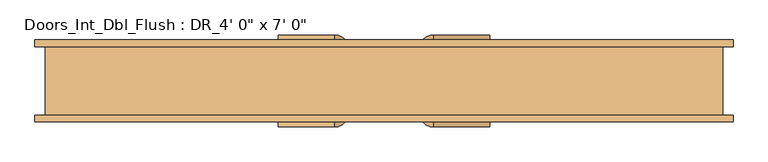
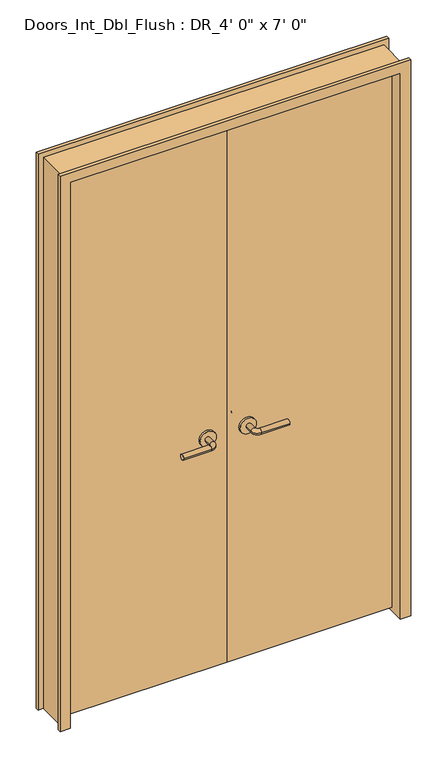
"""IFC4 building model written with IfcOpenShell, lengths in millimetres: door geometry."""

from ifc_helpers import new_model, si_unit, point, frame, frame_2d, origin, place, context, project, spatial, polyline, circle_curve, ellipse_curve, trimmed, segment, composite_curve, outline, extrude, faceted_brep, source, transform, mapped, element, save
from ifc_brep_helpers import plane_surface, cylinder_surface, revolved_surface, advanced_brep


def door_745d30e0(model_context):
    return source(origin(), model_context, "Body", "SolidModel", [
        advanced_brep(
        [(-66.2, -30.225, 914.4), (-86.2, -30.225, 914.4), (-66.2, -60.225, 914.4), (-86.2, -60.225, 914.4), (-91.2, -65.225, 914.4), (-91.2, -85.225, 914.4), (-196.2, -85.225, 914.4), (-196.2, -65.225, 914.4)],
        [
            (0, 1, circle_curve(frame((-76.2, -30.225, 914.4), z_axis=(0.0, 1.0, 0.0), x_axis=(-1.0, 0.0, 0.0)), 10.0)),
            (1, 0, circle_curve(frame((-76.2, -30.225, 914.4), z_axis=(0.0, 1.0, 0.0), x_axis=(-1.0, 0.0, 0.0)), 10.0)),
            (0, 2),
            (2, 3, circle_curve(frame((-76.2, -60.225, 914.4), z_axis=(0.0, 1.0, 0.0), x_axis=(-1.0, 0.0, 0.0)), 10.0)),
            (3, 1),
            (3, 2, circle_curve(frame((-76.2, -60.225, 914.4), z_axis=(0.0, 1.0, 0.0), x_axis=(-1.0, 0.0, 0.0)), 10.0)),
            (4, 3, circle_curve(frame((-91.2, -60.225, 914.4), z_axis=(0.0, 0.0, 1.0), x_axis=(1.0, 0.0, 0.0)), 5.0)),
            (2, 5, circle_curve(frame((-91.2, -60.225, 914.4), z_axis=(0.0, 0.0, -1.0), x_axis=(1.0, 0.0, 0.0)), 25.0)),
            (5, 4, circle_curve(frame((-91.2, -75.225, 914.4), z_axis=(1.0, 0.0, 0.0), x_axis=(0.0, 1.0, 0.0)), 10.0)),
            (4, 5, circle_curve(frame((-91.2, -75.225, 914.4), z_axis=(1.0, 0.0, 0.0), x_axis=(0.0, 1.0, 0.0)), 10.0)),
            (6, 7, circle_curve(frame((-196.2, -75.225, 914.4), z_axis=(-1.0, 0.0, 0.0), x_axis=(0.0, 1.0, 0.0)), 10.0)),
            (7, 6, circle_curve(frame((-196.2, -75.225, 914.4), z_axis=(-1.0, 0.0, 0.0), x_axis=(0.0, 1.0, 0.0)), 10.0)),
            (5, 6),
            (7, 4),
        ],
        [
            plane_surface(frame((-76.2, -30.225, 914.4), z_axis=(0.0, 1.0, 0.0), x_axis=(0.0, 0.0, 1.0))),
            cylinder_surface(frame((-76.2, -30.225, 914.4), z_axis=(0.0, 1.0, 0.0), x_axis=(-1.0, 0.0, 0.0)), 10.0),
            revolved_surface(trimmed(ellipse_curve(frame((-76.2, -60.225, 914.4), z_axis=(0.0, 1.0, 0.0), x_axis=(-1.0, 0.0, 0.0)), 10.0, 10.0), [point((-66.2, -60.225, 914.4))], [point((-86.2, -60.225, 914.4))], True, "CARTESIAN"), (-91.2, -60.225, 914.4), (0.0, 0.0, -1.0)),
            revolved_surface(trimmed(ellipse_curve(frame((-76.2, -60.225, 914.4), z_axis=(0.0, 1.0, 0.0), x_axis=(-1.0, 0.0, 0.0)), 10.0, 10.0), [point((-86.2, -60.225, 914.4))], [point((-66.2, -60.225, 914.4))], True, "CARTESIAN"), (-91.2, -60.225, 914.4), (0.0, 0.0, -1.0)),
            plane_surface(frame((-196.2, -75.225, 914.4), z_axis=(-1.0, 0.0, 0.0), x_axis=(0.0, 0.0, 1.0))),
            cylinder_surface(frame((-91.2, -75.225, 914.4), z_axis=(1.0, 0.0, 0.0), x_axis=(0.0, 1.0, 0.0)), 10.0),
        ],
        [
            (0, [[1, 2]]),
            (1, [[-1, 3, 4, 5]]),
            (1, [[-2, -5, 6, -3]]),
            (2, [[7, -4, 8, 9]]),
            (3, [[-8, -6, -7, 10]]),
            (4, [[11, 12]]),
            (5, [[-9, 13, -12, 14]]),
            (5, [[-10, -14, -11, -13]]),
        ],
    ),
        extrude(outline(composite_curve([segment(trimmed(circle_curve(frame_2d((914.4, -73.7)), 30.0), [point((914.4, -43.7))], [point((914.4, -103.7))], False, "CARTESIAN"), True, "CONTINUOUS"), segment(trimmed(circle_curve(frame_2d((914.4, -73.7)), 30.0), [point((914.4, -103.7))], [point((914.4, -43.7))], False, "CARTESIAN"), True, "CONTINUOUS")], self_intersect=False)), frame((0.0, -30.225, 0.0), z_axis=(0.0, 1.0, 0.0), x_axis=(0.0, 0.0, 1.0)), (0.0, 0.0, 1.0), 8.0),
        advanced_brep(
        [(-66.2, 30.225, 914.4), (-86.2, 30.225, 914.4), (-86.2, 60.225, 914.4), (-66.2, 60.225, 914.4), (-91.2, 65.225, 914.4), (-91.2, 85.225, 914.4), (-196.2, 85.225, 914.4), (-196.2, 65.225, 914.4)],
        [
            (0, 1, circle_curve(frame((-76.2, 30.225, 914.4), z_axis=(0.0, -1.0, 0.0), x_axis=(-1.0, 0.0, 0.0)), 10.0)),
            (1, 0, circle_curve(frame((-76.2, 30.225, 914.4), z_axis=(0.0, -1.0, 0.0), x_axis=(-1.0, 0.0, 0.0)), 10.0)),
            (1, 2),
            (2, 3, circle_curve(frame((-76.2, 60.225, 914.4), z_axis=(0.0, -1.0, 0.0), x_axis=(-1.0, 0.0, 0.0)), 10.0)),
            (3, 0),
            (3, 2, circle_curve(frame((-76.2, 60.225, 914.4), z_axis=(0.0, -1.0, 0.0), x_axis=(-1.0, 0.0, 0.0)), 10.0)),
            (4, 5, circle_curve(frame((-91.2, 75.225, 914.4), z_axis=(1.0, 0.0, 0.0), x_axis=(0.0, -1.0, 0.0)), 10.0)),
            (5, 3, circle_curve(frame((-91.2, 60.225, 914.4), z_axis=(0.0, 0.0, -1.0), x_axis=(1.0, 0.0, 0.0)), 25.0)),
            (2, 4, circle_curve(frame((-91.2, 60.225, 914.4), z_axis=(0.0, 0.0, 1.0), x_axis=(1.0, 0.0, 0.0)), 5.0)),
            (5, 4, circle_curve(frame((-91.2, 75.225, 914.4), z_axis=(1.0, 0.0, 0.0), x_axis=(0.0, -1.0, 0.0)), 10.0)),
            (6, 7, circle_curve(frame((-196.2, 75.225, 914.4), z_axis=(-1.0, 0.0, 0.0), x_axis=(0.0, -1.0, 0.0)), 10.0)),
            (7, 6, circle_curve(frame((-196.2, 75.225, 914.4), z_axis=(-1.0, 0.0, 0.0), x_axis=(0.0, -1.0, 0.0)), 10.0)),
            (4, 7),
            (6, 5),
        ],
        [
            plane_surface(frame((-76.2, 30.225, 914.4), z_axis=(0.0, -1.0, 0.0), x_axis=(0.0, 0.0, 1.0))),
            cylinder_surface(frame((-76.2, 30.225, 914.4), z_axis=(0.0, -1.0, 0.0), x_axis=(-1.0, 0.0, 0.0)), 10.0),
            revolved_surface(trimmed(ellipse_curve(frame((-76.2, 60.225, 914.4), z_axis=(0.0, 1.0, 0.0), x_axis=(-1.0, 0.0, 0.0)), 10.0, 10.0), [point((-66.2, 60.225, 914.4))], [point((-86.2, 60.225, 914.4))], True, "CARTESIAN"), (-91.2, 60.225, 914.4), (0.0, 0.0, -1.0)),
            revolved_surface(trimmed(ellipse_curve(frame((-76.2, 60.225, 914.4), z_axis=(0.0, 1.0, 0.0), x_axis=(-1.0, 0.0, 0.0)), 10.0, 10.0), [point((-86.2, 60.225, 914.4))], [point((-66.2, 60.225, 914.4))], True, "CARTESIAN"), (-91.2, 60.225, 914.4), (0.0, 0.0, -1.0)),
            plane_surface(frame((-196.2, 75.225, 914.4), z_axis=(-1.0, 0.0, 0.0), x_axis=(0.0, 0.0, 1.0))),
            cylinder_surface(frame((-91.2, 75.225, 914.4), z_axis=(1.0, 0.0, 0.0), x_axis=(0.0, -1.0, 0.0)), 10.0),
        ],
        [
            (0, [[1, 2]]),
            (1, [[3, 4, 5, -2]]),
            (1, [[-5, 6, -3, -1]]),
            (2, [[7, 8, -4, 9]]),
            (3, [[10, -9, -6, -8]]),
            (4, [[11, 12]]),
            (5, [[13, -11, 14, -7]]),
            (5, [[-14, -12, -13, -10]]),
        ],
    ),
        extrude(outline(composite_curve([segment(trimmed(circle_curve(frame_2d((914.4, -73.7)), 30.0), [point((914.4, -43.7))], [point((914.4, -103.7))], False, "CARTESIAN"), True, "CONTINUOUS"), segment(trimmed(circle_curve(frame_2d((914.4, -73.7)), 30.0), [point((914.4, -103.7))], [point((914.4, -43.7))], False, "CARTESIAN"), True, "CONTINUOUS")], self_intersect=False)), frame((0.0, 22.225, 0.0), z_axis=(0.0, 1.0, 0.0), x_axis=(0.0, 0.0, 1.0)), (0.0, 0.0, 1.0), 8.0),
        extrude(outline(polyline([(-609.6, -22.225), (-609.6, 22.225), (0.0, 22.225), (0.0, -22.225), (-609.6, -22.225)])), frame((0.0, 0.0, 12.7), z_axis=(0.0, 0.0, 1.0), x_axis=(1.0, 0.0, 0.0)), (0.0, 0.0, 1.0), 2120.9),
        advanced_brep(
        [(66.2, -30.225, 914.4), (86.2, -30.225, 914.4), (86.2, -60.225, 914.4), (66.2, -60.225, 914.4), (91.2, -65.225, 914.4), (91.2, -85.225, 914.4), (196.2, -85.225, 914.4), (196.2, -65.225, 914.4)],
        [
            (0, 1, circle_curve(frame((76.2, -30.225, 914.4), z_axis=(0.0, 1.0, 0.0), x_axis=(1.0, 0.0, 0.0)), 10.0)),
            (1, 0, circle_curve(frame((76.2, -30.225, 914.4), z_axis=(0.0, 1.0, 0.0), x_axis=(1.0, 0.0, 0.0)), 10.0)),
            (1, 2),
            (2, 3, circle_curve(frame((76.2, -60.225, 914.4), z_axis=(0.0, 1.0, 0.0), x_axis=(1.0, 0.0, 0.0)), 10.0)),
            (3, 0),
            (3, 2, circle_curve(frame((76.2, -60.225, 914.4), z_axis=(0.0, 1.0, 0.0), x_axis=(1.0, 0.0, 0.0)), 10.0)),
            (4, 5, circle_curve(frame((91.2, -75.225, 914.4), z_axis=(-1.0, 0.0, 0.0), x_axis=(0.0, 1.0, 0.0)), 10.0)),
            (5, 3, circle_curve(frame((91.2, -60.225, 914.4), z_axis=(0.0, 0.0, -1.0), x_axis=(-1.0, 0.0, 0.0)), 25.0)),
            (2, 4, circle_curve(frame((91.2, -60.225, 914.4), z_axis=(0.0, 0.0, 1.0), x_axis=(-1.0, 0.0, 0.0)), 5.0)),
            (5, 4, circle_curve(frame((91.2, -75.225, 914.4), z_axis=(-1.0, 0.0, 0.0), x_axis=(0.0, 1.0, 0.0)), 10.0)),
            (6, 7, circle_curve(frame((196.2, -75.225, 914.4), z_axis=(1.0, 0.0, 0.0), x_axis=(0.0, 1.0, 0.0)), 10.0)),
            (7, 6, circle_curve(frame((196.2, -75.225, 914.4), z_axis=(1.0, 0.0, 0.0), x_axis=(0.0, 1.0, 0.0)), 10.0)),
            (4, 7),
            (6, 5),
        ],
        [
            plane_surface(frame((76.2, -30.225, 914.4), z_axis=(0.0, 1.0, 0.0), x_axis=(0.0, 0.0, 1.0))),
            cylinder_surface(frame((76.2, -30.225, 914.4), z_axis=(0.0, 1.0, 0.0), x_axis=(1.0, 0.0, 0.0)), 10.0),
            revolved_surface(trimmed(ellipse_curve(frame((76.2, -60.225, 914.4), z_axis=(0.0, -1.0, 0.0), x_axis=(1.0, 0.0, 0.0)), 10.0, 10.0), [point((66.2, -60.225, 914.4))], [point((86.2, -60.225, 914.4))], True, "CARTESIAN"), (91.2, -60.225, 914.4), (0.0, 0.0, -1.0)),
            revolved_surface(trimmed(ellipse_curve(frame((76.2, -60.225, 914.4), z_axis=(0.0, -1.0, 0.0), x_axis=(1.0, 0.0, 0.0)), 10.0, 10.0), [point((86.2, -60.225, 914.4))], [point((66.2, -60.225, 914.4))], True, "CARTESIAN"), (91.2, -60.225, 914.4), (0.0, 0.0, -1.0)),
            plane_surface(frame((196.2, -75.225, 914.4), z_axis=(1.0, 0.0, 0.0), x_axis=(0.0, 0.0, 1.0))),
            cylinder_surface(frame((91.2, -75.225, 914.4), z_axis=(-1.0, 0.0, 0.0), x_axis=(0.0, 1.0, 0.0)), 10.0),
        ],
        [
            (0, [[1, 2]]),
            (1, [[3, 4, 5, -2]]),
            (1, [[-5, 6, -3, -1]]),
            (2, [[7, 8, -4, 9]]),
            (3, [[10, -9, -6, -8]]),
            (4, [[11, 12]]),
            (5, [[13, -11, 14, -7]]),
            (5, [[-14, -12, -13, -10]]),
        ],
    ),
        extrude(outline(composite_curve([segment(trimmed(circle_curve(frame_2d((914.4, 73.7)), 30.0), [point((914.4, 43.7))], [point((914.4, 103.7))], False, "CARTESIAN"), True, "CONTINUOUS"), segment(trimmed(circle_curve(frame_2d((914.4, 73.7)), 30.0), [point((914.4, 103.7))], [point((914.4, 43.7))], False, "CARTESIAN"), True, "CONTINUOUS")], self_intersect=False)), frame((0.0, -30.225, 0.0), z_axis=(0.0, 1.0, 0.0), x_axis=(0.0, 0.0, 1.0)), (0.0, 0.0, 1.0), 8.0),
        advanced_brep(
        [(66.2, 30.225, 914.4), (86.2, 30.225, 914.4), (66.2, 60.225, 914.4), (86.2, 60.225, 914.4), (91.2, 65.225, 914.4), (91.2, 85.225, 914.4), (196.2, 85.225, 914.4), (196.2, 65.225, 914.4)],
        [
            (0, 1, circle_curve(frame((76.2, 30.225, 914.4), z_axis=(0.0, -1.0, 0.0), x_axis=(1.0, 0.0, 0.0)), 10.0)),
            (1, 0, circle_curve(frame((76.2, 30.225, 914.4), z_axis=(0.0, -1.0, 0.0), x_axis=(1.0, 0.0, 0.0)), 10.0)),
            (0, 2),
            (2, 3, circle_curve(frame((76.2, 60.225, 914.4), z_axis=(0.0, -1.0, 0.0), x_axis=(1.0, 0.0, 0.0)), 10.0)),
            (3, 1),
            (3, 2, circle_curve(frame((76.2, 60.225, 914.4), z_axis=(0.0, -1.0, 0.0), x_axis=(1.0, 0.0, 0.0)), 10.0)),
            (4, 3, circle_curve(frame((91.2, 60.225, 914.4), z_axis=(0.0, 0.0, 1.0), x_axis=(-1.0, 0.0, 0.0)), 5.0)),
            (2, 5, circle_curve(frame((91.2, 60.225, 914.4), z_axis=(0.0, 0.0, -1.0), x_axis=(-1.0, 0.0, 0.0)), 25.0)),
            (5, 4, circle_curve(frame((91.2, 75.225, 914.4), z_axis=(-1.0, 0.0, 0.0), x_axis=(0.0, -1.0, 0.0)), 10.0)),
            (4, 5, circle_curve(frame((91.2, 75.225, 914.4), z_axis=(-1.0, 0.0, 0.0), x_axis=(0.0, -1.0, 0.0)), 10.0)),
            (6, 7, circle_curve(frame((196.2, 75.225, 914.4), z_axis=(1.0, 0.0, 0.0), x_axis=(0.0, -1.0, 0.0)), 10.0)),
            (7, 6, circle_curve(frame((196.2, 75.225, 914.4), z_axis=(1.0, 0.0, 0.0), x_axis=(0.0, -1.0, 0.0)), 10.0)),
            (5, 6),
            (7, 4),
        ],
        [
            plane_surface(frame((76.2, 30.225, 914.4), z_axis=(0.0, -1.0, 0.0), x_axis=(0.0, 0.0, 1.0))),
            cylinder_surface(frame((76.2, 30.225, 914.4), z_axis=(0.0, -1.0, 0.0), x_axis=(1.0, 0.0, 0.0)), 10.0),
            revolved_surface(trimmed(ellipse_curve(frame((76.2, 60.225, 914.4), z_axis=(0.0, -1.0, 0.0), x_axis=(1.0, 0.0, 0.0)), 10.0, 10.0), [point((66.2, 60.225, 914.4))], [point((86.2, 60.225, 914.4))], True, "CARTESIAN"), (91.2, 60.225, 914.4), (0.0, 0.0, -1.0)),
            revolved_surface(trimmed(ellipse_curve(frame((76.2, 60.225, 914.4), z_axis=(0.0, -1.0, 0.0), x_axis=(1.0, 0.0, 0.0)), 10.0, 10.0), [point((86.2, 60.225, 914.4))], [point((66.2, 60.225, 914.4))], True, "CARTESIAN"), (91.2, 60.225, 914.4), (0.0, 0.0, -1.0)),
            plane_surface(frame((196.2, 75.225, 914.4), z_axis=(1.0, 0.0, 0.0), x_axis=(0.0, 0.0, 1.0))),
            cylinder_surface(frame((91.2, 75.225, 914.4), z_axis=(-1.0, 0.0, 0.0), x_axis=(0.0, -1.0, 0.0)), 10.0),
        ],
        [
            (0, [[1, 2]]),
            (1, [[-1, 3, 4, 5]]),
            (1, [[-2, -5, 6, -3]]),
            (2, [[7, -4, 8, 9]]),
            (3, [[-8, -6, -7, 10]]),
            (4, [[11, 12]]),
            (5, [[-9, 13, -12, 14]]),
            (5, [[-10, -14, -11, -13]]),
        ],
    ),
        extrude(outline(composite_curve([segment(trimmed(circle_curve(frame_2d((914.4, 73.7)), 30.0), [point((914.4, 43.7))], [point((914.4, 103.7))], False, "CARTESIAN"), True, "CONTINUOUS"), segment(trimmed(circle_curve(frame_2d((914.4, 73.7)), 30.0), [point((914.4, 103.7))], [point((914.4, 43.7))], False, "CARTESIAN"), True, "CONTINUOUS")], self_intersect=False)), frame((0.0, 22.225, 0.0), z_axis=(0.0, 1.0, 0.0), x_axis=(0.0, 0.0, 1.0)), (0.0, 0.0, 1.0), 8.0),
        extrude(outline(polyline([(609.6, -22.225), (0.0, -22.225), (0.0, 22.225), (609.6, 22.225), (609.6, -22.225)])), frame((0.0, 0.0, 12.7), z_axis=(0.0, 0.0, 1.0), x_axis=(1.0, 0.0, 0.0)), (0.0, 0.0, 1.0), 2120.9),
        faceted_brep([(-609.6, 76.2, 0.0), (-609.6, -76.2, 0.0), (-647.7, -76.2, 0.0), (-647.7, -63.5, 0.0), (-628.65, -63.5, 0.0), (-628.65, 63.5, 0.0), (-647.7, 63.5, 0.0), (-647.7, 76.2, 0.0), (-647.7, 76.2, 2171.7), (647.7, 76.2, 2171.7), (647.7, 76.2, 0.0), (609.6, 76.2, 0.0), (609.6, 76.2, 2133.6), (-609.6, 76.2, 2133.6), (-647.7, 63.5, 2171.7), (-628.65, 63.5, 2152.65), (628.65, 63.5, 2152.65), (628.65, 63.5, 0.0), (647.7, 63.5, 0.0), (647.7, 63.5, 2171.7), (-628.65, -63.5, 2152.65), (-647.7, -63.5, 2171.7), (647.7, -63.5, 2171.7), (647.7, -63.5, 0.0), (628.65, -63.5, 0.0), (628.65, -63.5, 2152.65), (-647.7, -76.2, 2171.7), (-609.6, -76.2, 2133.6), (609.6, -76.2, 2133.6), (609.6, -76.2, 0.0), (647.7, -76.2, 0.0), (647.7, -76.2, 2171.7)], [[[0, 1, 2, 3, 4, 5, 6, 7]], [[7, 8, 9, 10, 11, 12, 13, 0]], [[6, 14, 8, 7]], [[5, 15, 16, 17, 18, 19, 14, 6]], [[4, 20, 15, 5]], [[3, 21, 22, 23, 24, 25, 20, 4]], [[2, 26, 21, 3]], [[1, 27, 28, 29, 30, 31, 26, 2]], [[0, 13, 27, 1]], [[12, 11, 29, 28]], [[11, 10, 18, 17, 24, 23, 30, 29]], [[19, 18, 10, 9]], [[31, 30, 23, 22]], [[25, 24, 17, 16]], [[20, 25, 16, 15]], [[13, 12, 28, 27]], [[14, 19, 9, 8]], [[26, 31, 22, 21]]]),
    ])


if __name__ == "__main__":
    model = new_model("IFC4")
    model_context = context("Model", 3, world=origin())
    ifc_project = project(units=[si_unit("LENGTHUNIT", "METRE", prefix="MILLI")], contexts=[model_context])
    site = spatial("IfcSite", under=ifc_project)
    building = spatial("IfcBuilding", under=site)
    placement = place(None, origin())
    door_shape = door_745d30e0(model_context)
    element("IfcDoor", 1, ObjectType="Doors_Int_Dbl_Flush : DR_4' 0\" x 7' 0\"", at=placement, inside=building, context=model_context, shape_type="MappedRepresentation", body=[
        mapped(door_shape, transform((0.0, 0.0, 0.0), x_axis=(1.0, 0.0, 0.0), y_axis=(0.0, 1.0, 0.0), z_axis=(0.0, 0.0, 1.0))),
    ])
    save(model, "model.ifc")
